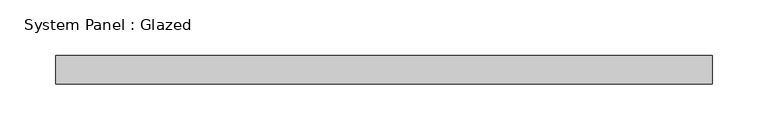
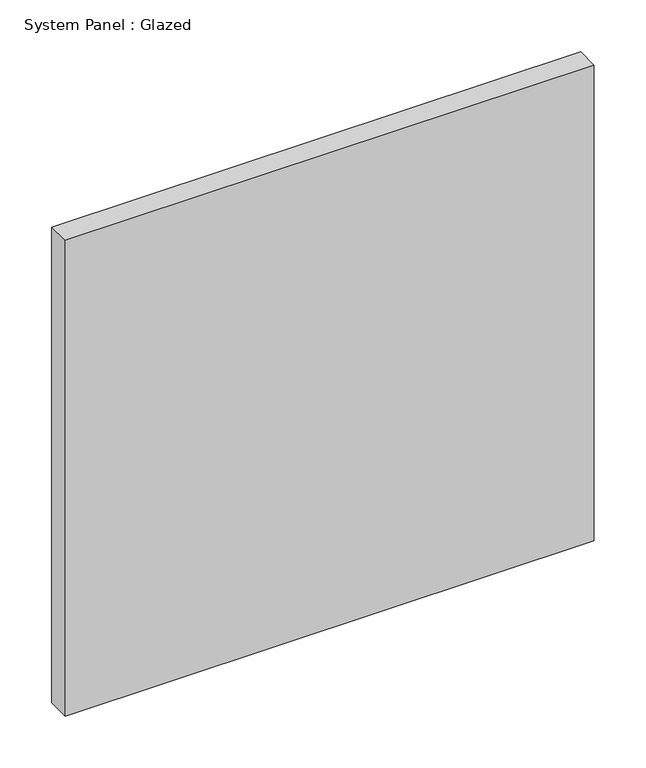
"""IFC4 building model written with IfcOpenShell, lengths in millimetres: plate geometry, System Panel : Glazed."""

from ifc_helpers import new_model, si_unit, origin, origin_with_axes, place, context, project, spatial, polyline, outline, extrude, source, transform, mapped, element, save


def system_panel_glazed_2e7df24a(model_context):
    return source(origin(), model_context, "Body", "SweptSolid", [
        extrude(outline(polyline([(294.005, -12.7), (-294.005, -12.7), (-294.005, 12.7), (294.005, 12.7), (294.005, -12.7)])), origin_with_axes(), (0.0, 0.0, 1.0), 558.8),
    ])


if __name__ == "__main__":
    model = new_model("IFC4")
    model_context = context("Model", 3, world=origin())
    ifc_project = project(units=[si_unit("LENGTHUNIT", "METRE", prefix="MILLI")], contexts=[model_context])
    site = spatial("IfcSite", under=ifc_project)
    building = spatial("IfcBuilding", under=site)
    placement = place(None, origin())
    system_panel_glazed_shape = system_panel_glazed_2e7df24a(model_context)
    element("IfcPlate", 1, ObjectType="System Panel : Glazed", at=placement, inside=building, context=model_context, shape_type="MappedRepresentation", body=[
        mapped(system_panel_glazed_shape, transform((0.0, 0.0, 0.0), x_axis=(1.0, 0.0, 0.0), y_axis=(0.0, 1.0, 0.0), z_axis=(0.0, 0.0, 1.0))),
    ])
    save(model, "model.ifc")
